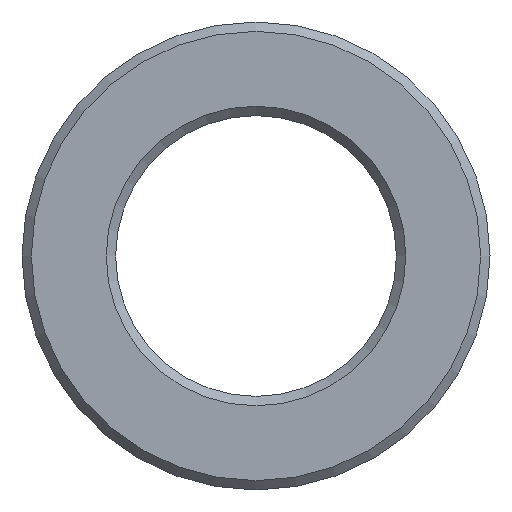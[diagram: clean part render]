
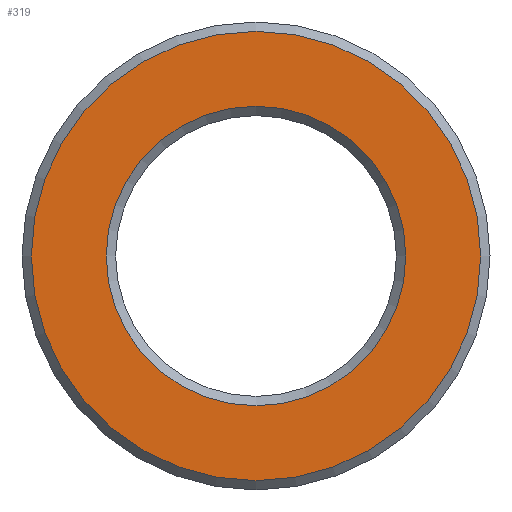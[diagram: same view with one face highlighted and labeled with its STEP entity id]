
A CAD part, left-side view. The second image highlights one B-rep face of the part: STEP entity #319.
In plain terms, the highlighted planar face has unit normal (-1, 0, 0).
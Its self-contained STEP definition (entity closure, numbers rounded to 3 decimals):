
#277=CARTESIAN_POINT('',(-25.0,12.0,0.));
#278=VERTEX_POINT('',#277);
#279=CARTESIAN_POINT('',(-25.0,0.0,0.0));
#280=DIRECTION('',(1.0,0.0,0.0));
#281=DIRECTION('',(0.0,-1.0,0.0));
#282=AXIS2_PLACEMENT_3D('',#279,#280,#281);
#283=CIRCLE('',#282,12.0);
#284=EDGE_CURVE('',#278,#278,#283,.T.);
#300=CARTESIAN_POINT('',(-25.0,10.,0.0));
#301=DIRECTION('',(-1.0,0.0,0.0));
#302=DIRECTION('',(0.0,0.0,1.0));
#303=AXIS2_PLACEMENT_3D('',#300,#301,#302);
#304=PLANE('',#303);
#305=ORIENTED_EDGE('',*,*,#284,.F.);
#306=EDGE_LOOP('',(#305));
#307=FACE_OUTER_BOUND('',#306,.T.);
#308=CARTESIAN_POINT('',(-25.0,8.,0.));
#309=VERTEX_POINT('',#308);
#310=CARTESIAN_POINT('',(-25.0,0.0,0.0));
#311=DIRECTION('',(-1.0,0.0,0.0));
#312=DIRECTION('',(0.0,-1.0,0.0));
#313=AXIS2_PLACEMENT_3D('',#310,#311,#312);
#314=CIRCLE('',#313,8.);
#315=EDGE_CURVE('',#309,#309,#314,.T.);
#316=ORIENTED_EDGE('',*,*,#315,.F.);
#317=EDGE_LOOP('',(#316));
#318=FACE_BOUND('',#317,.T.);
#319=ADVANCED_FACE('',(#307,#318),#304,.T.);
